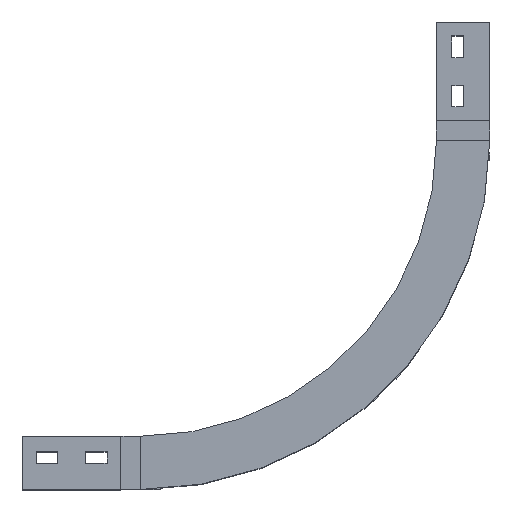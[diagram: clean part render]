
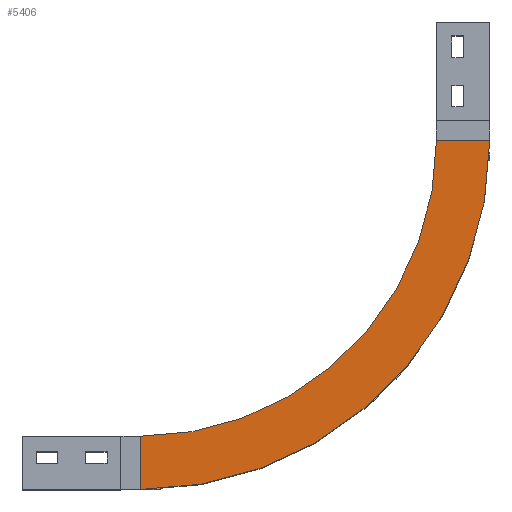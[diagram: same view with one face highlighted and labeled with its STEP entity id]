
A CAD part, top view. The second image highlights one B-rep face of the part: STEP entity #5406.
In plain terms, the highlighted planar face has unit normal (0, 0, 1).
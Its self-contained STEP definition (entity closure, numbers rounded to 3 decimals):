
#289=CIRCLE('',#5703,300.);
#290=CIRCLE('',#5704,354.);
#502=FACE_OUTER_BOUND('',#786,.T.);
#786=EDGE_LOOP('',(#3647,#3648,#3649,#3650));
#1163=LINE('',#7556,#1743);
#1167=LINE('',#7567,#1747);
#1743=VECTOR('',#6129,304.8);
#1747=VECTOR('',#6139,304.8);
#2323=VERTEX_POINT('',#7554);
#2324=VERTEX_POINT('',#7555);
#2327=VERTEX_POINT('',#7563);
#2328=VERTEX_POINT('',#7565);
#2851=EDGE_CURVE('',#2323,#2324,#1163,.T.);
#2855=EDGE_CURVE('',#2327,#2324,#289,.T.);
#2856=EDGE_CURVE('',#2323,#2328,#290,.T.);
#2857=EDGE_CURVE('',#2327,#2328,#1167,.T.);
#3647=ORIENTED_EDGE('',*,*,#2855,.T.);
#3648=ORIENTED_EDGE('',*,*,#2851,.F.);
#3649=ORIENTED_EDGE('',*,*,#2856,.T.);
#3650=ORIENTED_EDGE('',*,*,#2857,.F.);
#5228=PLANE('',#5702);
#5406=ADVANCED_FACE('',(#502),#5228,.T.);
#5702=AXIS2_PLACEMENT_3D('',#7562,#6133,#6134);
#5703=AXIS2_PLACEMENT_3D('',#7564,#6135,#6136);
#5704=AXIS2_PLACEMENT_3D('',#7566,#6137,#6138);
#6129=DIRECTION('',(0.,1.,0.));
#6133=DIRECTION('center_axis',(0.,0.,1.));
#6134=DIRECTION('ref_axis',(0.,-1.,0.));
#6135=DIRECTION('center_axis',(0.,0.,-1.));
#6136=DIRECTION('ref_axis',(0.,-1.,0.));
#6137=DIRECTION('center_axis',(0.,0.,1.));
#6138=DIRECTION('ref_axis',(0.,-1.,0.));
#6139=DIRECTION('',(1.,0.,0.));
#7554=CARTESIAN_POINT('',(-327.,-27.,155.5));
#7555=CARTESIAN_POINT('',(-327.,27.,155.5));
#7556=CARTESIAN_POINT('',(-327.,-27.,155.5));
#7562=CARTESIAN_POINT('Origin',(-327.,327.,155.5));
#7563=CARTESIAN_POINT('',(-27.,327.,155.5));
#7564=CARTESIAN_POINT('Origin',(-327.,327.,155.5));
#7565=CARTESIAN_POINT('',(27.,327.,155.5));
#7566=CARTESIAN_POINT('Origin',(-327.,327.,155.5));
#7567=CARTESIAN_POINT('',(-27.,327.,155.5));
